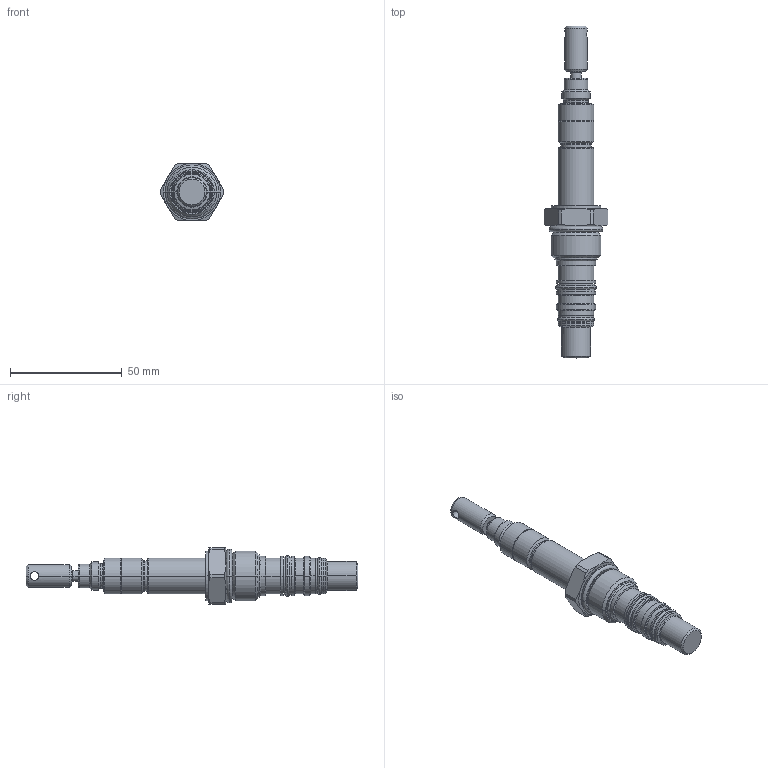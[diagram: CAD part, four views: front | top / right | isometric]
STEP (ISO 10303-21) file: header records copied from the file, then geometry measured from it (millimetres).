
FILE_DESCRIPTION((''),'2;1');
FILE_NAME('PRT0002','2009-08-05T',('JCS'),(''),'PRO/ENGINEER BY PARAMETRIC TECHNOLOGY CORPORATION, 2008510','PRO/ENGINEER BY PARAMETRIC TECHNOLOGY CORPORATION, 2008510','');
FILE_SCHEMA(('CONFIG_CONTROL_DESIGN'));
Length unit declared in the file: inch
Products named in the file (1): PRT0002
Bounding box: 28.57 x 148.23 x 25.4 mm (x, y, z)
Volume: 30231.7 mm3; surface area: 10489.1 mm2
Topology: 3 solids, 3 shells, 220 faces, 507 edges, 309 vertices
Faces by surface type: cylinder 74, cone 64, torus 48, plane 34
Entity records: 6460 total; most frequent: DIRECTION 1246, CARTESIAN_POINT 1206, ORIENTED_EDGE 1014, AXIS2_PLACEMENT_3D 551, EDGE_CURVE 507, CIRCLE 331, VERTEX_POINT 309, EDGE_LOOP 242
